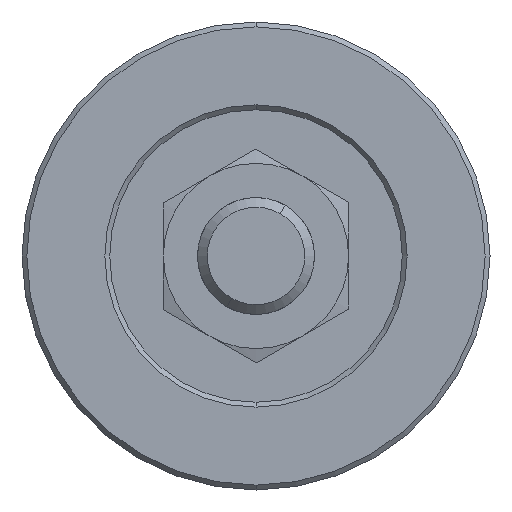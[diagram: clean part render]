
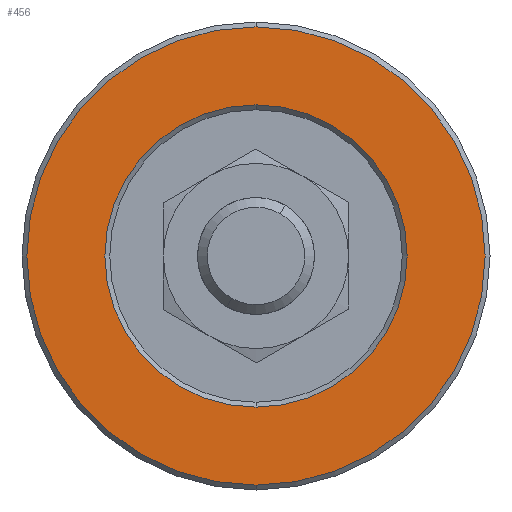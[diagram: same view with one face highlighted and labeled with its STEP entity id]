
A CAD part, front view. The second image highlights one B-rep face of the part: STEP entity #456.
In plain terms, the highlighted planar face has unit normal (0, -1, 0).
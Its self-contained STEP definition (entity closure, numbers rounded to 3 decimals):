
#41 = VERTEX_POINT ( 'NONE', #5386 ) ;
#362 = CIRCLE ( 'NONE', #6651, 15.5 ) ;
#456 = ADVANCED_FACE ( 'NONE', ( #890, #3984 ), #5618, .T. ) ;
#539 = CARTESIAN_POINT ( 'NONE',  ( 0., 0., 0. ) ) ;
#742 = CIRCLE ( 'NONE', #6977, 23.5 ) ;
#775 = VERTEX_POINT ( 'NONE', #6498 ) ;
#890 = FACE_OUTER_BOUND ( 'NONE', #3982, .T. ) ;
#1337 = DIRECTION ( 'NONE',  ( 0., 0., -1. ) ) ;
#1703 = CARTESIAN_POINT ( 'NONE',  ( 0., 0., 0. ) ) ;
#1852 = EDGE_CURVE ( 'NONE', #41, #775, #5747, .T. ) ;
#2251 = CARTESIAN_POINT ( 'NONE',  ( 0., 0., 15.5 ) ) ;
#2440 = CARTESIAN_POINT ( 'NONE',  ( 15., 0., 0. ) ) ;
#2623 = ORIENTED_EDGE ( 'NONE', *, *, #2957, .T. ) ;
#2648 = EDGE_LOOP ( 'NONE', ( #2623, #6126 ) ) ;
#2876 = EDGE_CURVE ( 'NONE', #3239, #5033, #2989, .T. ) ;
#2954 = AXIS2_PLACEMENT_3D ( 'NONE', #539, #4268, #4316 ) ;
#2957 = EDGE_CURVE ( 'NONE', #5033, #3239, #362, .T. ) ;
#2989 = CIRCLE ( 'NONE', #7597, 15.5 ) ;
#3239 = VERTEX_POINT ( 'NONE', #2251 ) ;
#3257 = DIRECTION ( 'NONE',  ( 0., 1., 0. ) ) ;
#3921 = CARTESIAN_POINT ( 'NONE',  ( 0., 0., 0. ) ) ;
#3982 = EDGE_LOOP ( 'NONE', ( #4222, #6633 ) ) ;
#3984 = FACE_BOUND ( 'NONE', #2648, .T. ) ;
#4222 = ORIENTED_EDGE ( 'NONE', *, *, #6337, .T. ) ;
#4268 = DIRECTION ( 'NONE',  ( 0., -1., 0. ) ) ;
#4316 = DIRECTION ( 'NONE',  ( 0., 0., -1. ) ) ;
#4923 = DIRECTION ( 'NONE',  ( 0., -1., 0. ) ) ;
#5033 = VERTEX_POINT ( 'NONE', #5391 ) ;
#5243 = DIRECTION ( 'NONE',  ( 0., 1., 0. ) ) ;
#5386 = CARTESIAN_POINT ( 'NONE',  ( 0., 0., -23.5 ) ) ;
#5391 = CARTESIAN_POINT ( 'NONE',  ( 0., 0., -15.5 ) ) ;
#5618 = PLANE ( 'NONE',  #5750 ) ;
#5747 = CIRCLE ( 'NONE', #2954, 23.5 ) ;
#5750 = AXIS2_PLACEMENT_3D ( 'NONE', #2440, #7414, #5754 ) ;
#5754 = DIRECTION ( 'NONE',  ( 0., 0., -1. ) ) ;
#5762 = CARTESIAN_POINT ( 'NONE',  ( 0., 0., 0. ) ) ;
#6018 = DIRECTION ( 'NONE',  ( 0., 0., -1. ) ) ;
#6126 = ORIENTED_EDGE ( 'NONE', *, *, #2876, .T. ) ;
#6337 = EDGE_CURVE ( 'NONE', #775, #41, #742, .T. ) ;
#6498 = CARTESIAN_POINT ( 'NONE',  ( 0., 0., 23.5 ) ) ;
#6633 = ORIENTED_EDGE ( 'NONE', *, *, #1852, .T. ) ;
#6651 = AXIS2_PLACEMENT_3D ( 'NONE', #3921, #5243, #7035 ) ;
#6977 = AXIS2_PLACEMENT_3D ( 'NONE', #1703, #4923, #6018 ) ;
#7035 = DIRECTION ( 'NONE',  ( 0., 0., -1. ) ) ;
#7414 = DIRECTION ( 'NONE',  ( 0., -1., 0. ) ) ;
#7597 = AXIS2_PLACEMENT_3D ( 'NONE', #5762, #3257, #1337 ) ;
